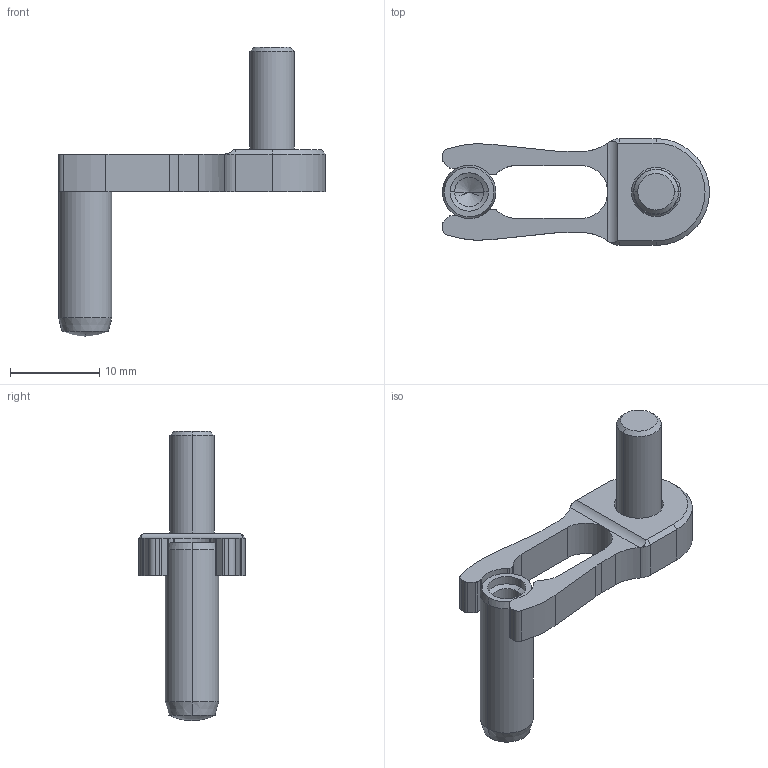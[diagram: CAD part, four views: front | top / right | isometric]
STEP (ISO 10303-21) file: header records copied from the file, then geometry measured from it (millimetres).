
FILE_DESCRIPTION (( 'STEP AP214' ), '1' );
FILE_NAME ('RC123006.STEP', '2017-05-16T14:07:11', ( '' ), ( '' ), 'SwSTEP 2.0', 'SolidWorks 2017', '' );
FILE_SCHEMA (( 'AUTOMOTIVE_DESIGN' ));
Length unit declared in the file: millimetre
Products named in the file (4): 9RC123006; RC123006; 1DIN7991516_DIN 7991 - M5 x 16 --- 16C; 1PCR7979620_ISO 8735-6x20-A-St
Assembly tree (3 placements, depth 2):
  RC123006
    9RC123006
    1PCR7979620_ISO 8735-6x20-A-St
    1DIN7991516_DIN 7991 - M5 x 16 --- 16C
Bounding box: 30 x 12 x 32.5 mm (x, y, z)
Volume: 1538.9 mm3; surface area: 1836.3 mm2
Topology: 3 solids, 3 shells, 103 faces, 253 edges, 154 vertices
Faces by surface type: cylinder 41, plane 37, cone 21, sphere 2, torus 2
Entity records: 3219 total; most frequent: DIRECTION 569, CARTESIAN_POINT 536, ORIENTED_EDGE 498, EDGE_CURVE 249, AXIS2_PLACEMENT_3D 215, VERTEX_POINT 154, LINE 139, VECTOR 139
